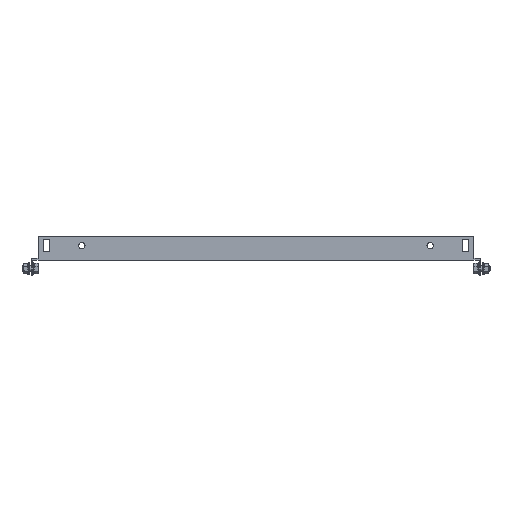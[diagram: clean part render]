
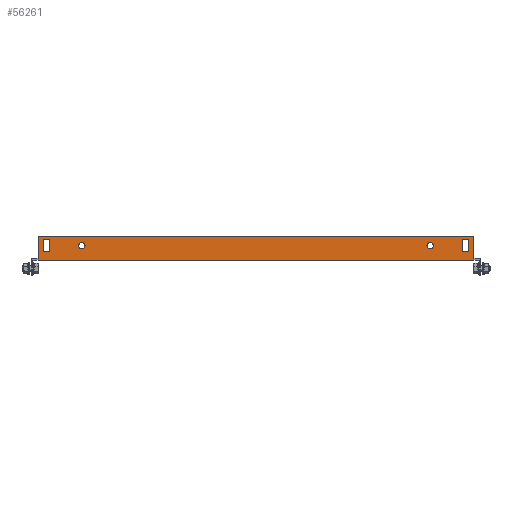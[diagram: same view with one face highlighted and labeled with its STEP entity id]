
A CAD part, front view. The second image highlights one B-rep face of the part: STEP entity #56261.
In plain terms, the highlighted planar face has unit normal (0, -1, 0).
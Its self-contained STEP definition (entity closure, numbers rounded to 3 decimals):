
#49686 = VERTEX_POINT('',#49687);
#49687 = CARTESIAN_POINT('',(242.,-234.5,0.));
#49693 = EDGE_CURVE('',#49694,#49686,#49696,.T.);
#49694 = VERTEX_POINT('',#49695);
#49695 = CARTESIAN_POINT('',(-242.,-234.5,0.));
#49696 = LINE('',#49697,#49698);
#49697 = CARTESIAN_POINT('',(-242.,-234.5,0.));
#49698 = VECTOR('',#49699,1.);
#49699 = DIRECTION('',(1.,-0.,-0.));
#56140 = VERTEX_POINT('',#56141);
#56141 = CARTESIAN_POINT('',(-242.,-234.5,2.6));
#56156 = EDGE_CURVE('',#56140,#49694,#56157,.T.);
#56157 = LINE('',#56158,#56159);
#56158 = CARTESIAN_POINT('',(-242.,-234.5,2.6));
#56159 = VECTOR('',#56160,1.);
#56160 = DIRECTION('',(0.,0.,-1.));
#56180 = VERTEX_POINT('',#56181);
#56181 = CARTESIAN_POINT('',(242.,-234.5,2.6));
#56187 = EDGE_CURVE('',#56180,#49686,#56188,.T.);
#56188 = LINE('',#56189,#56190);
#56189 = CARTESIAN_POINT('',(242.,-234.5,2.));
#56190 = VECTOR('',#56191,1.);
#56191 = DIRECTION('',(-0.,0.,-1.));
#56213 = VERTEX_POINT('',#56214);
#56214 = CARTESIAN_POINT('',(242.,-234.5,26.));
#56220 = EDGE_CURVE('',#56180,#56213,#56221,.T.);
#56221 = LINE('',#56222,#56223);
#56222 = CARTESIAN_POINT('',(242.,-234.5,26.));
#56223 = VECTOR('',#56224,1.);
#56224 = DIRECTION('',(-0.,0.,1.));
#56235 = EDGE_CURVE('',#56236,#56140,#56238,.T.);
#56236 = VERTEX_POINT('',#56237);
#56237 = CARTESIAN_POINT('',(-242.,-234.5,26.));
#56238 = LINE('',#56239,#56240);
#56239 = CARTESIAN_POINT('',(-242.,-234.5,2.));
#56240 = VECTOR('',#56241,1.);
#56241 = DIRECTION('',(-0.,0.,-1.));
#56261 = ADVANCED_FACE('',(#56262,#56296,#56307,#56318,#56352),#56365,
  .F.);
#56262 = FACE_BOUND('',#56263,.T.);
#56263 = EDGE_LOOP('',(#56264,#56274,#56282,#56290));
#56264 = ORIENTED_EDGE('',*,*,#56265,.F.);
#56265 = EDGE_CURVE('',#56266,#56268,#56270,.T.);
#56266 = VERTEX_POINT('',#56267);
#56267 = CARTESIAN_POINT('',(236.5,-234.5,9.));
#56268 = VERTEX_POINT('',#56269);
#56269 = CARTESIAN_POINT('',(236.5,-234.5,23.));
#56270 = LINE('',#56271,#56272);
#56271 = CARTESIAN_POINT('',(236.5,-234.5,23.));
#56272 = VECTOR('',#56273,1.);
#56273 = DIRECTION('',(-0.,0.,1.));
#56274 = ORIENTED_EDGE('',*,*,#56275,.F.);
#56275 = EDGE_CURVE('',#56276,#56266,#56278,.T.);
#56276 = VERTEX_POINT('',#56277);
#56277 = CARTESIAN_POINT('',(229.5,-234.5,9.));
#56278 = LINE('',#56279,#56280);
#56279 = CARTESIAN_POINT('',(236.5,-234.5,9.));
#56280 = VECTOR('',#56281,1.);
#56281 = DIRECTION('',(1.,-0.,-0.));
#56282 = ORIENTED_EDGE('',*,*,#56283,.F.);
#56283 = EDGE_CURVE('',#56284,#56276,#56286,.T.);
#56284 = VERTEX_POINT('',#56285);
#56285 = CARTESIAN_POINT('',(229.5,-234.5,23.));
#56286 = LINE('',#56287,#56288);
#56287 = CARTESIAN_POINT('',(229.5,-234.5,9.));
#56288 = VECTOR('',#56289,1.);
#56289 = DIRECTION('',(0.,0.,-1.));
#56290 = ORIENTED_EDGE('',*,*,#56291,.F.);
#56291 = EDGE_CURVE('',#56268,#56284,#56292,.T.);
#56292 = LINE('',#56293,#56294);
#56293 = CARTESIAN_POINT('',(229.5,-234.5,23.));
#56294 = VECTOR('',#56295,1.);
#56295 = DIRECTION('',(-1.,-0.,-0.));
#56296 = FACE_BOUND('',#56297,.T.);
#56297 = EDGE_LOOP('',(#56298));
#56298 = ORIENTED_EDGE('',*,*,#56299,.F.);
#56299 = EDGE_CURVE('',#56300,#56300,#56302,.T.);
#56300 = VERTEX_POINT('',#56301);
#56301 = CARTESIAN_POINT('',(193.5,-234.5,19.5));
#56302 = CIRCLE('',#56303,3.5);
#56303 = AXIS2_PLACEMENT_3D('',#56304,#56305,#56306);
#56304 = CARTESIAN_POINT('',(193.5,-234.5,16.));
#56305 = DIRECTION('',(0.,-1.,0.));
#56306 = DIRECTION('',(0.,0.,1.));
#56307 = FACE_BOUND('',#56308,.T.);
#56308 = EDGE_LOOP('',(#56309));
#56309 = ORIENTED_EDGE('',*,*,#56310,.F.);
#56310 = EDGE_CURVE('',#56311,#56311,#56313,.T.);
#56311 = VERTEX_POINT('',#56312);
#56312 = CARTESIAN_POINT('',(-193.5,-234.5,12.5));
#56313 = CIRCLE('',#56314,3.5);
#56314 = AXIS2_PLACEMENT_3D('',#56315,#56316,#56317);
#56315 = CARTESIAN_POINT('',(-193.5,-234.5,16.));
#56316 = DIRECTION('',(0.,-1.,0.));
#56317 = DIRECTION('',(0.,0.,-1.));
#56318 = FACE_BOUND('',#56319,.T.);
#56319 = EDGE_LOOP('',(#56320,#56330,#56338,#56346));
#56320 = ORIENTED_EDGE('',*,*,#56321,.F.);
#56321 = EDGE_CURVE('',#56322,#56324,#56326,.T.);
#56322 = VERTEX_POINT('',#56323);
#56323 = CARTESIAN_POINT('',(-236.5,-234.5,23.));
#56324 = VERTEX_POINT('',#56325);
#56325 = CARTESIAN_POINT('',(-236.5,-234.5,9.));
#56326 = LINE('',#56327,#56328);
#56327 = CARTESIAN_POINT('',(-236.5,-234.5,9.));
#56328 = VECTOR('',#56329,1.);
#56329 = DIRECTION('',(-0.,0.,-1.));
#56330 = ORIENTED_EDGE('',*,*,#56331,.F.);
#56331 = EDGE_CURVE('',#56332,#56322,#56334,.T.);
#56332 = VERTEX_POINT('',#56333);
#56333 = CARTESIAN_POINT('',(-229.5,-234.5,23.));
#56334 = LINE('',#56335,#56336);
#56335 = CARTESIAN_POINT('',(-236.5,-234.5,23.));
#56336 = VECTOR('',#56337,1.);
#56337 = DIRECTION('',(-1.,-0.,-0.));
#56338 = ORIENTED_EDGE('',*,*,#56339,.F.);
#56339 = EDGE_CURVE('',#56340,#56332,#56342,.T.);
#56340 = VERTEX_POINT('',#56341);
#56341 = CARTESIAN_POINT('',(-229.5,-234.5,9.));
#56342 = LINE('',#56343,#56344);
#56343 = CARTESIAN_POINT('',(-229.5,-234.5,23.));
#56344 = VECTOR('',#56345,1.);
#56345 = DIRECTION('',(-0.,0.,1.));
#56346 = ORIENTED_EDGE('',*,*,#56347,.F.);
#56347 = EDGE_CURVE('',#56324,#56340,#56348,.T.);
#56348 = LINE('',#56349,#56350);
#56349 = CARTESIAN_POINT('',(-229.5,-234.5,9.));
#56350 = VECTOR('',#56351,1.);
#56351 = DIRECTION('',(1.,-0.,-0.));
#56352 = FACE_BOUND('',#56353,.T.);
#56353 = EDGE_LOOP('',(#56354,#56355,#56356,#56357,#56358,#56359));
#56354 = ORIENTED_EDGE('',*,*,#56235,.T.);
#56355 = ORIENTED_EDGE('',*,*,#56156,.T.);
#56356 = ORIENTED_EDGE('',*,*,#49693,.T.);
#56357 = ORIENTED_EDGE('',*,*,#56187,.F.);
#56358 = ORIENTED_EDGE('',*,*,#56220,.T.);
#56359 = ORIENTED_EDGE('',*,*,#56360,.T.);
#56360 = EDGE_CURVE('',#56213,#56236,#56361,.T.);
#56361 = LINE('',#56362,#56363);
#56362 = CARTESIAN_POINT('',(-242.,-234.5,26.));
#56363 = VECTOR('',#56364,1.);
#56364 = DIRECTION('',(-1.,-0.,-0.));
#56365 = PLANE('',#56366);
#56366 = AXIS2_PLACEMENT_3D('',#56367,#56368,#56369);
#56367 = CARTESIAN_POINT('',(242.,-234.5,2.));
#56368 = DIRECTION('',(-0.,1.,0.));
#56369 = DIRECTION('',(0.,0.,1.));
